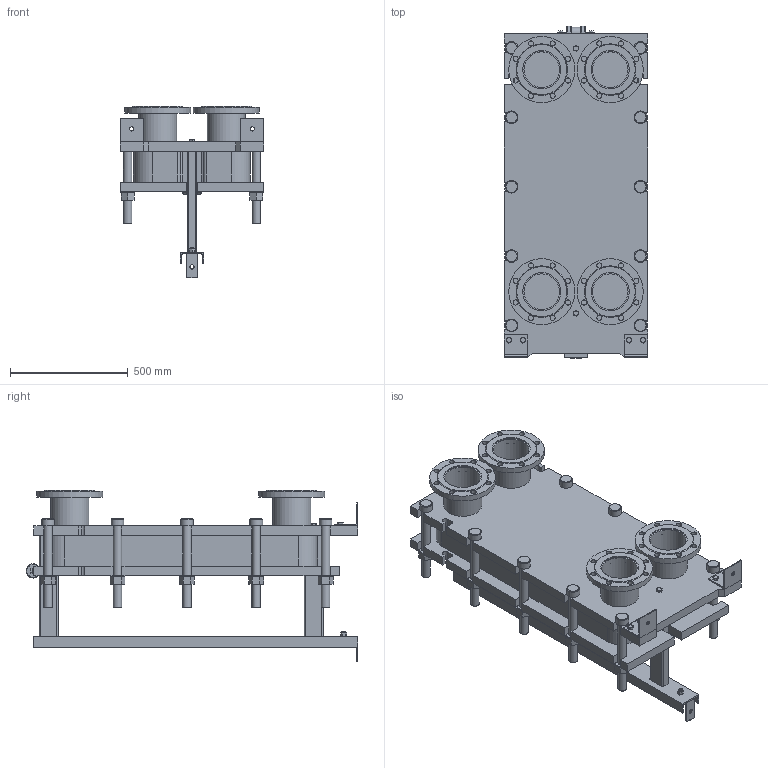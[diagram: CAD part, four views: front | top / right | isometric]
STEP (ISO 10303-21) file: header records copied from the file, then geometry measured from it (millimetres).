
FILE_DESCRIPTION(/* description */ (''),/* implementation_level */ '2;1');
FILE_NAME(/* name */ 'C:\Users\zhuro\Desktop\ENCO\TO\ЭН-041\ЭН-0,5-041-38-1.stp',/* time_stamp */ '2022-06-06T10:51:40+03:00',/* author */ ('zhuro'),/* organization */ (''),/* preprocessor_version */ 'ST-DEVELOPER v18.1',/* originating_system */ 'Autodesk Inventor 2022',/* authorisation */ '');
FILE_SCHEMA (('AUTOMOTIVE_DESIGN { 1 0 10303 214 3 1 1 }'));
Length unit declared in the file: millimetre
Products named in the file (1): ЭН-0,5-041-38-1
Bounding box: 610 x 1406.5 x 725 mm (x, y, z)
Volume: 149851780.5 mm3; surface area: 7657462 mm2
Topology: 52 solids, 52 shells, 711 faces, 1696 edges, 1094 vertices
Faces by surface type: plane 487, cylinder 177, cone 41, torus 6
Full cylindrical faces by diameter (mm): 8 x4, 10 x2, 16 x8, 18 x3, 22 x32, 36 x24, 50 x1, 54 x10, 60 x12, 151 x4, 161 x8, 280 x4
Entity records: 22667 total; most frequent: CARTESIAN_POINT 5230, DIRECTION 3644, ORIENTED_EDGE 3392, EDGE_CURVE 1696, AXIS2_PLACEMENT_3D 1272, LINE 1100, VECTOR 1100, VERTEX_POINT 1094
